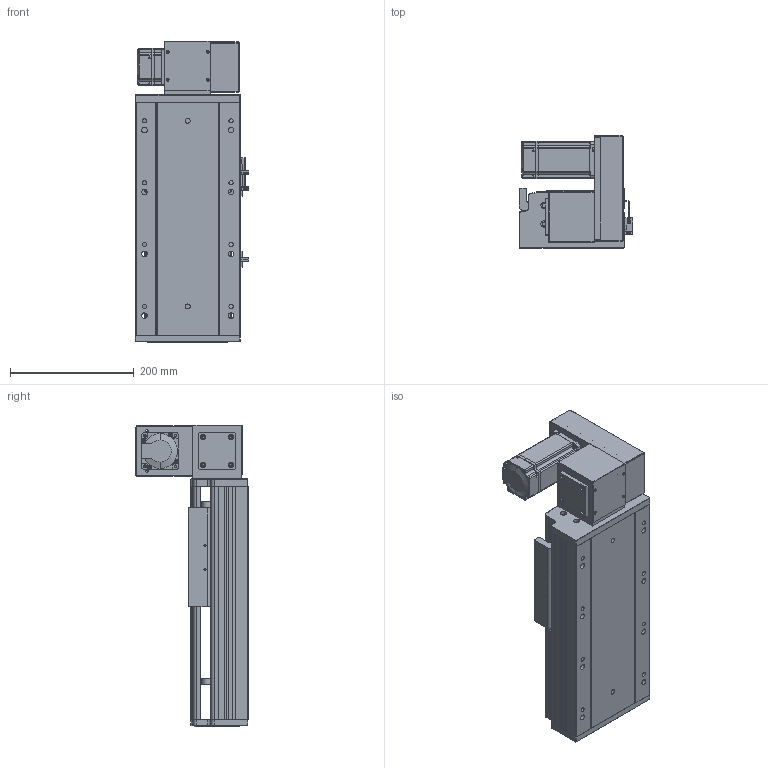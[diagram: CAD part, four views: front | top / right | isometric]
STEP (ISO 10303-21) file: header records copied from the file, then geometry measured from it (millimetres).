
FILE_DESCRIPTION (( 'STEP AP203' ), '1' );
FILE_NAME ('RY170-T-300-UR-P400W.SLDASM_100.step', '2021-03-01T09:26:35', ( '盈信电脑' ), ( '东莞市道滘镇水果街19号' ), 'SwSTEP 2.0', 'SolidWorks 2012', '' );
FILE_SCHEMA (( 'CONFIG_CONTROL_DESIGN' ));
Products named in the file (18): RY170-T-300-UR-P400W.SLDASM_100; RY170-T蹟翐M4; 15; 滅袉蝶18-10; RY170-T肮祭謫裔啣; RY120-T主同步轮轴承压盖; RY170-T肮祭湍揤踡輸2; RY170-T肮祭湍揤踡輸1; RY170肮祭謫萇儂欶; RY170同步轮电机安装板(400W); RY170翋肮祭謫釱; RY170肮祭謫ヶ裔啣; RY170外置感应片(200共用）; 覜茼ん672; RY170綴裔啣; RY170肮祭湍臏賑輸; RY170-T-300肮祭謫倰第菁釱-DR_100; RY170-T-300肮祭謫倰第裔啣-DR_100
Assembly tree (22 placements, depth 2):
  RY170-T-300-UR-P400W.SLDASM_100
    RY170-T-300肮祭謫倰第菁釱-DR_100
    RY170肮祭湍臏賑輸
    RY170-T-300肮祭謫倰第裔啣-DR_100
    RY170綴裔啣
    覜茼ん672  x3
    RY170外置感应片(200共用）
    RY170肮祭謫ヶ裔啣
    RY170翋肮祭謫釱
    RY170同步轮电机安装板(400W)
    RY170肮祭謫萇儂欶
    RY170-T肮祭湍揤踡輸1  x2
    RY170-T肮祭湍揤踡輸2  x2
    RY120-T主同步轮轴承压盖
    RY170-T肮祭謫裔啣
    RY170-T蹟翐M4
    滅袉蝶18-10  x2
    15
Bounding box: 183.7 x 182 x 488 mm (x, y, z)
Volume: 3163014 mm3; surface area: 1016512.6 mm2
Topology: 22 solids, 22 shells, 2540 faces, 6970 edges, 4505 vertices
Faces by surface type: plane 1254, cylinder 1076, cone 180, bspline 30
Entity records: 73896 total; most frequent: CARTESIAN_POINT 15659, ORIENTED_EDGE 11760, DIRECTION 11712, EDGE_CURVE 5880, AXIS2_PLACEMENT_3D 4068, VERTEX_POINT 3861, VECTOR 3576, LINE 3576
